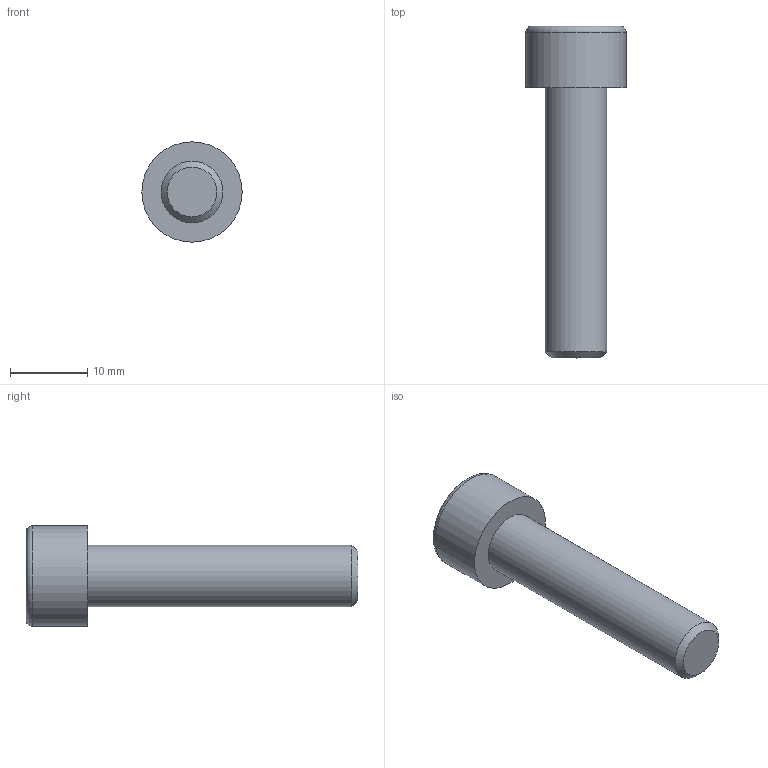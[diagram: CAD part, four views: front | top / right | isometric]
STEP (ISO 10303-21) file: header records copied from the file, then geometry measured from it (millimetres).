
FILE_DESCRIPTION(/* description */ (''),/* implementation_level */ '2;1');
FILE_NAME(/* name */ 'C:\Users\D\Documents\Inventor\各種小物\JIS\JIS B 1176 六角穴付きボルト\M8x35.stp',/* time_stamp */ '2022-05-09T18:52:30+09:00',/* author */ ('D'),/* organization */ (''),/* preprocessor_version */ 'ST-DEVELOPER v18',/* originating_system */ 'Autodesk Inventor 2020',/* authorisation */ '');
FILE_SCHEMA (('AUTOMOTIVE_DESIGN { 1 0 10303 214 3 1 1 }'));
Length unit declared in the file: millimetre
Products named in the file (1): M1.6x2.5
Bounding box: 13 x 43 x 13 mm (x, y, z)
Volume: 2659.6 mm3; surface area: 1537 mm2
Topology: 1 solids, 1 shells, 14 faces, 33 edges, 22 vertices
Faces by surface type: plane 9, cone 2, cylinder 2, torus 1
Full cylindrical faces by diameter (mm): 8 x1, 13 x1
Entity records: 435 total; most frequent: CARTESIAN_POINT 83, ORIENTED_EDGE 64, DIRECTION 64, EDGE_CURVE 32, AXIS2_PLACEMENT_3D 24, VERTEX_POINT 22, EDGE_LOOP 16, LINE 16
